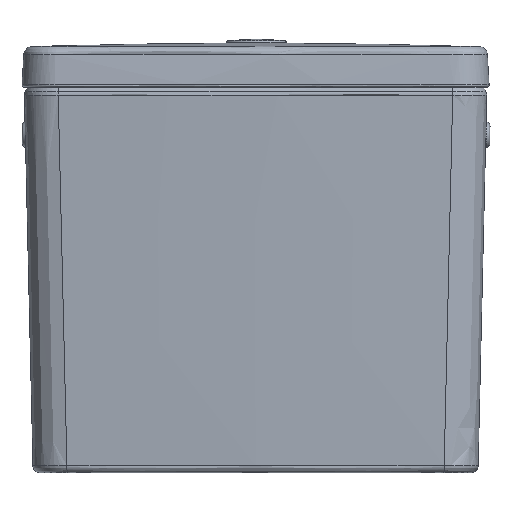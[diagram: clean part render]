
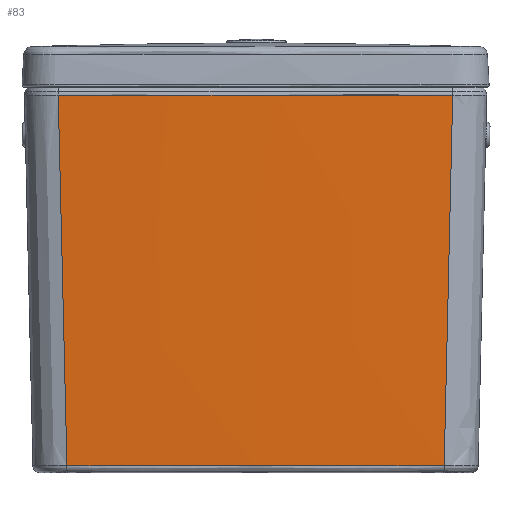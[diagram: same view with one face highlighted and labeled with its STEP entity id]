
A CAD part, front view. The second image highlights one B-rep face of the part: STEP entity #83.
In plain terms, the highlighted free-form (B-spline) face has degree [3, 4] with [4, 5] control points.
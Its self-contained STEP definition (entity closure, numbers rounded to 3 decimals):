
#83=ADVANCED_FACE('',(#253),#2466,.T.);
#253=FACE_OUTER_BOUND('',#423,.T.);
#423=EDGE_LOOP('',(#742,#743,#744,#745));
#742=ORIENTED_EDGE('',*,*,#1450,.F.);
#743=ORIENTED_EDGE('',*,*,#1457,.F.);
#744=ORIENTED_EDGE('',*,*,#1458,.T.);
#745=ORIENTED_EDGE('',*,*,#1459,.T.);
#1450=EDGE_CURVE('',#2231,#2229,#1927,.T.);
#1457=EDGE_CURVE('',#2235,#2231,#1934,.T.);
#1458=EDGE_CURVE('',#2235,#2236,#1935,.T.);
#1459=EDGE_CURVE('',#2236,#2229,#1936,.T.);
#1927=B_SPLINE_CURVE_WITH_KNOTS('',5,(#11968,#11969,#11970,#11971,#11972,
#11973,#11974,#11975,#11976,#11977,#11978,#11979,#11980,#11981,#11982,#11983,
#11984,#11985),.UNSPECIFIED.,.F.,.F.,(6,3,3,3,3,6),(-418.841,-398.473,
-357.385,-295.852,-172.786,-106.198),
 .UNSPECIFIED.);
#1934=B_SPLINE_CURVE_WITH_KNOTS('',5,(#12036,#12037,#12038,#12039,#12040,
#12041),.UNSPECIFIED.,.F.,.F.,(6,6),(153.165,471.117),
 .UNSPECIFIED.);
#1935=B_SPLINE_CURVE_WITH_KNOTS('',3,(#12042,#12043,#12044,#12045),
 .UNSPECIFIED.,.F.,.F.,(4,4),(0.,439.355),.UNSPECIFIED.);
#1936=B_SPLINE_CURVE_WITH_KNOTS('',3,(#12046,#12047,#12048,#12049),
 .UNSPECIFIED.,.F.,.F.,(4,4),(-466.247,0.),
 .UNSPECIFIED.);
#2229=VERTEX_POINT('',#11175);
#2231=VERTEX_POINT('',#11177);
#2235=VERTEX_POINT('',#11181);
#2236=VERTEX_POINT('',#11182);
#2466=B_SPLINE_SURFACE_WITH_KNOTS('',3,4,((#7027,#7028,#7029,#7030,#7031),
(#7032,#7033,#7034,#7035,#7036),(#7037,#7038,#7039,#7040,#7041),(#7042,
#7043,#7044,#7045,#7046)),.UNSPECIFIED.,.F.,.F.,.F.,(4,4),(5,5),(0.,325.164),
(0.,382.814),.UNSPECIFIED.);
#7027=CARTESIAN_POINT('',(188.491,-77.812,-180.743));
#7028=CARTESIAN_POINT('',(94.83,-82.811,-180.743));
#7029=CARTESIAN_POINT('',(0.991,-84.481,-180.743));
#7030=CARTESIAN_POINT('',(-92.848,-82.811,-180.743));
#7031=CARTESIAN_POINT('',(-186.509,-77.812,-180.743));
#7032=CARTESIAN_POINT('',(190.991,-80.845,-72.41));
#7033=CARTESIAN_POINT('',(96.079,-85.855,-72.41));
#7034=CARTESIAN_POINT('',(0.988,-87.427,-72.41));
#7035=CARTESIAN_POINT('',(-94.104,-85.69,-72.41));
#7036=CARTESIAN_POINT('',(-189.009,-80.517,-72.41));
#7037=CARTESIAN_POINT('',(193.491,-83.877,35.924));
#7038=CARTESIAN_POINT('',(97.327,-89.002,35.924));
#7039=CARTESIAN_POINT('',(0.976,-90.65,35.924));
#7040=CARTESIAN_POINT('',(-95.366,-88.673,35.924));
#7041=CARTESIAN_POINT('',(-191.509,-83.223,35.924));
#7042=CARTESIAN_POINT('',(195.991,-86.91,144.257));
#7043=CARTESIAN_POINT('',(98.576,-92.046,144.257));
#7044=CARTESIAN_POINT('',(0.973,-93.597,144.257));
#7045=CARTESIAN_POINT('',(-96.622,-91.554,144.257));
#7046=CARTESIAN_POINT('',(-194.009,-85.928,144.257));
#11175=CARTESIAN_POINT('',(-165.351,-87.29,137.575));
#11177=CARTESIAN_POINT('',(-158.01,-79.371,-174.901));
#11181=CARTESIAN_POINT('',(159.991,-79.386,-174.916));
#11182=CARTESIAN_POINT('',(167.185,-88.118,137.573));
#11968=CARTESIAN_POINT('',(-158.01,-79.371,-174.901));
#11969=CARTESIAN_POINT('',(-158.105,-79.474,-170.834));
#11970=CARTESIAN_POINT('',(-158.201,-79.577,-166.753));
#11971=CARTESIAN_POINT('',(-158.297,-79.681,-162.656));
#11972=CARTESIAN_POINT('',(-158.587,-79.994,-150.26));
#11973=CARTESIAN_POINT('',(-158.878,-80.308,-137.864));
#11974=CARTESIAN_POINT('',(-159.073,-80.518,-129.577));
#11975=CARTESIAN_POINT('',(-159.559,-81.042,-108.878));
#11976=CARTESIAN_POINT('',(-160.045,-81.567,-88.179));
#11977=CARTESIAN_POINT('',(-160.337,-81.882,-75.768));
#11978=CARTESIAN_POINT('',(-161.214,-82.827,-38.533));
#11979=CARTESIAN_POINT('',(-162.091,-83.773,-1.298));
#11980=CARTESIAN_POINT('',(-162.675,-84.403,23.525));
#11981=CARTESIAN_POINT('',(-163.575,-85.373,61.78));
#11982=CARTESIAN_POINT('',(-164.472,-86.342,100.035));
#11983=CARTESIAN_POINT('',(-164.772,-86.665,112.82));
#11984=CARTESIAN_POINT('',(-165.062,-86.978,125.226));
#11985=CARTESIAN_POINT('',(-165.351,-87.29,137.575));
#12036=CARTESIAN_POINT('',(159.991,-79.386,-174.916));
#12037=CARTESIAN_POINT('',(96.434,-82.257,-174.912));
#12038=CARTESIAN_POINT('',(32.812,-83.691,-174.907));
#12039=CARTESIAN_POINT('',(-30.832,-83.688,-174.904));
#12040=CARTESIAN_POINT('',(-94.453,-82.248,-174.903));
#12041=CARTESIAN_POINT('',(-158.01,-79.371,-174.901));
#12042=CARTESIAN_POINT('',(159.991,-79.386,-174.916));
#12043=CARTESIAN_POINT('',(162.378,-82.287,-70.753));
#12044=CARTESIAN_POINT('',(164.797,-85.216,33.41));
#12045=CARTESIAN_POINT('',(167.185,-88.118,137.573));
#12046=CARTESIAN_POINT('',(167.185,-88.118,137.573));
#12047=CARTESIAN_POINT('',(56.409,-93.061,137.574));
#12048=CARTESIAN_POINT('',(-54.601,-92.784,137.574));
#12049=CARTESIAN_POINT('',(-165.351,-87.29,137.575));
